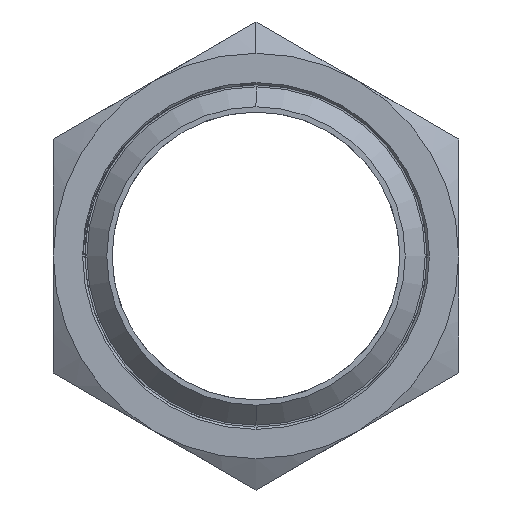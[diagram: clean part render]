
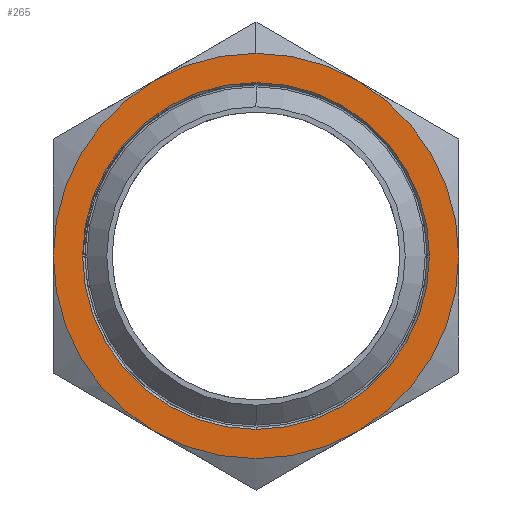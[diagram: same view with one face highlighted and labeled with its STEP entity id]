
A CAD part, left-side view. The second image highlights one B-rep face of the part: STEP entity #265.
In plain terms, the highlighted planar face has unit normal (-1, 0, 0) as drawn and (0, 0, 1) by its records, which use the part's own axes.
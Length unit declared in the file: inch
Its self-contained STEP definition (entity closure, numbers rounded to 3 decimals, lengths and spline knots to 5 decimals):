
#8 = CARTESIAN_POINT ( 'NONE',  ( 2.33827, 1.35, 1.51 ) ) ;
#16 = AXIS2_PLACEMENT_3D ( 'NONE', #3355, #1409, #1459 ) ;
#30 = ORIENTED_EDGE ( 'NONE', *, *, #4471, .T. ) ;
#82 = CARTESIAN_POINT ( 'NONE',  ( 0., 0., 1.51 ) ) ;
#173 = ORIENTED_EDGE ( 'NONE', *, *, #3535, .T. ) ;
#210 = AXIS2_PLACEMENT_3D ( 'NONE', #213, #891, #4255 ) ;
#213 = CARTESIAN_POINT ( 'NONE',  ( 0., 0., 1.51 ) ) ;
#232 = EDGE_CURVE ( 'NONE', #2757, #2569, #3734, .T. ) ;
#259 = DIRECTION ( 'NONE',  ( 1., 0., 0. ) ) ;
#265 = ADVANCED_FACE ( 'NONE', ( #1769, #1395 ), #2914, .T. ) ;
#276 = CIRCLE ( 'NONE', #4677, 2.31 ) ;
#337 = AXIS2_PLACEMENT_3D ( 'NONE', #2724, #4574, #2700 ) ;
#459 = DIRECTION ( 'NONE',  ( 1., 0., 0. ) ) ;
#501 = CIRCLE ( 'NONE', #3726, 2.7 ) ;
#553 = ORIENTED_EDGE ( 'NONE', *, *, #3789, .T. ) ;
#559 = DIRECTION ( 'NONE',  ( 0., 0., 1. ) ) ;
#576 = CARTESIAN_POINT ( 'NONE',  ( 0., 0., 1.51 ) ) ;
#588 = AXIS2_PLACEMENT_3D ( 'NONE', #2396, #559, #4202 ) ;
#670 = CARTESIAN_POINT ( 'NONE',  ( 0., 0., 1.51 ) ) ;
#674 = EDGE_CURVE ( 'NONE', #3029, #3414, #1523, .T. ) ;
#878 = EDGE_CURVE ( 'NONE', #2569, #3029, #4047, .T. ) ;
#891 = DIRECTION ( 'NONE',  ( 0., 0., -1. ) ) ;
#959 = EDGE_LOOP ( 'NONE', ( #3633, #3764, #553, #173, #30, #1359, #2074 ) ) ;
#1005 = DIRECTION ( 'NONE',  ( 0., 0., 1. ) ) ;
#1037 = DIRECTION ( 'NONE',  ( 0., 0., 1. ) ) ;
#1052 = AXIS2_PLACEMENT_3D ( 'NONE', #82, #1639, #459 ) ;
#1120 = CARTESIAN_POINT ( 'NONE',  ( 0., 2.7, 1.51 ) ) ;
#1300 = AXIS2_PLACEMENT_3D ( 'NONE', #4693, #3290, #4402 ) ;
#1359 = ORIENTED_EDGE ( 'NONE', *, *, #3058, .T. ) ;
#1395 = FACE_OUTER_BOUND ( 'NONE', #959, .T. ) ;
#1409 = DIRECTION ( 'NONE',  ( 0., 0., 1. ) ) ;
#1459 = DIRECTION ( 'NONE',  ( 1., 0., 0. ) ) ;
#1521 = DIRECTION ( 'NONE',  ( 1., 0., 0. ) ) ;
#1523 = CIRCLE ( 'NONE', #588, 2.7 ) ;
#1551 = CIRCLE ( 'NONE', #2193, 2.7 ) ;
#1639 = DIRECTION ( 'NONE',  ( 0., 0., 1. ) ) ;
#1676 = DIRECTION ( 'NONE',  ( 0., 0., 1. ) ) ;
#1769 = FACE_BOUND ( 'NONE', #2178, .T. ) ;
#1808 = VERTEX_POINT ( 'NONE', #2141 ) ;
#1967 = CARTESIAN_POINT ( 'NONE',  ( 0., 0., 1.51 ) ) ;
#1973 = VERTEX_POINT ( 'NONE', #3856 ) ;
#2074 = ORIENTED_EDGE ( 'NONE', *, *, #232, .T. ) ;
#2141 = CARTESIAN_POINT ( 'NONE',  ( -2.33827, 1.35, 1.51 ) ) ;
#2152 = CIRCLE ( 'NONE', #16, 2.7 ) ;
#2178 = EDGE_LOOP ( 'NONE', ( #2672, #3240 ) ) ;
#2193 = AXIS2_PLACEMENT_3D ( 'NONE', #4006, #1005, #2862 ) ;
#2396 = CARTESIAN_POINT ( 'NONE',  ( 0., 0., 1.51 ) ) ;
#2446 = EDGE_CURVE ( 'NONE', #3139, #1973, #4688, .T. ) ;
#2536 = CARTESIAN_POINT ( 'NONE',  ( 0., -2.7, 1.51 ) ) ;
#2557 = AXIS2_PLACEMENT_3D ( 'NONE', #670, #1037, #259 ) ;
#2569 = VERTEX_POINT ( 'NONE', #2704 ) ;
#2672 = ORIENTED_EDGE ( 'NONE', *, *, #2446, .T. ) ;
#2700 = DIRECTION ( 'NONE',  ( 1., 0., 0. ) ) ;
#2704 = CARTESIAN_POINT ( 'NONE',  ( 2.33827, -1.35, 1.51 ) ) ;
#2724 = CARTESIAN_POINT ( 'NONE',  ( 0., 0., 1.51 ) ) ;
#2757 = VERTEX_POINT ( 'NONE', #2536 ) ;
#2819 = EDGE_CURVE ( 'NONE', #1973, #3139, #276, .T. ) ;
#2862 = DIRECTION ( 'NONE',  ( 1., 0., 0. ) ) ;
#2914 = PLANE ( 'NONE',  #2557 ) ;
#3029 = VERTEX_POINT ( 'NONE', #4368 ) ;
#3058 = EDGE_CURVE ( 'NONE', #4125, #2757, #1551, .T. ) ;
#3139 = VERTEX_POINT ( 'NONE', #3982 ) ;
#3240 = ORIENTED_EDGE ( 'NONE', *, *, #2819, .T. ) ;
#3290 = DIRECTION ( 'NONE',  ( 0., 0., 1. ) ) ;
#3355 = CARTESIAN_POINT ( 'NONE',  ( 0., 0., 1.51 ) ) ;
#3398 = CARTESIAN_POINT ( 'NONE',  ( -2.33827, -1.35, 1.51 ) ) ;
#3414 = VERTEX_POINT ( 'NONE', #8 ) ;
#3415 = DIRECTION ( 'NONE',  ( 0., 0., -1. ) ) ;
#3534 = DIRECTION ( 'NONE',  ( 1., 0., 0. ) ) ;
#3535 = EDGE_CURVE ( 'NONE', #3605, #1808, #2152, .T. ) ;
#3605 = VERTEX_POINT ( 'NONE', #1120 ) ;
#3633 = ORIENTED_EDGE ( 'NONE', *, *, #878, .T. ) ;
#3726 = AXIS2_PLACEMENT_3D ( 'NONE', #576, #1676, #3534 ) ;
#3734 = CIRCLE ( 'NONE', #1300, 2.7 ) ;
#3764 = ORIENTED_EDGE ( 'NONE', *, *, #674, .T. ) ;
#3789 = EDGE_CURVE ( 'NONE', #3414, #3605, #3793, .T. ) ;
#3793 = CIRCLE ( 'NONE', #337, 2.7 ) ;
#3856 = CARTESIAN_POINT ( 'NONE',  ( -2.31, 0., 1.51 ) ) ;
#3982 = CARTESIAN_POINT ( 'NONE',  ( 2.31, 0., 1.51 ) ) ;
#4006 = CARTESIAN_POINT ( 'NONE',  ( 0., 0., 1.51 ) ) ;
#4047 = CIRCLE ( 'NONE', #1052, 2.7 ) ;
#4125 = VERTEX_POINT ( 'NONE', #3398 ) ;
#4202 = DIRECTION ( 'NONE',  ( 1., 0., 0. ) ) ;
#4255 = DIRECTION ( 'NONE',  ( 1., 0., 0. ) ) ;
#4368 = CARTESIAN_POINT ( 'NONE',  ( 2.7, 0., 1.51 ) ) ;
#4402 = DIRECTION ( 'NONE',  ( 1., 0., 0. ) ) ;
#4471 = EDGE_CURVE ( 'NONE', #1808, #4125, #501, .T. ) ;
#4574 = DIRECTION ( 'NONE',  ( 0., 0., 1. ) ) ;
#4677 = AXIS2_PLACEMENT_3D ( 'NONE', #1967, #3415, #1521 ) ;
#4688 = CIRCLE ( 'NONE', #210, 2.31 ) ;
#4693 = CARTESIAN_POINT ( 'NONE',  ( 0., 0., 1.51 ) ) ;
